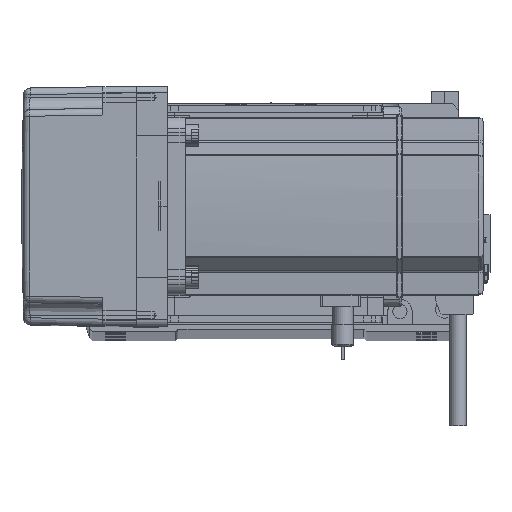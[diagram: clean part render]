
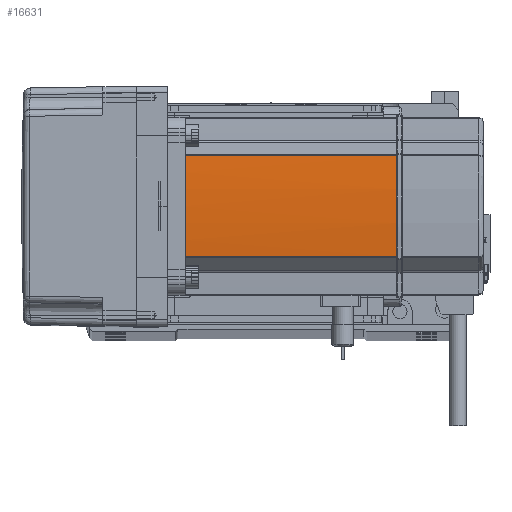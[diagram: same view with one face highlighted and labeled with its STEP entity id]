
A CAD part, top view. The second image highlights one B-rep face of the part: STEP entity #16631.
In plain terms, the highlighted cylindrical face has radius 270 mm (diameter 540 mm), a partial arc.
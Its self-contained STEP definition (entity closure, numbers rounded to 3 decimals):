
#725 = AXIS2_PLACEMENT_3D ( 'NONE', #38058, #58352, #13591 ) ;
#1411 = CARTESIAN_POINT ( 'NONE',  ( -230., 0., 39. ) ) ;
#3088 = VERTEX_POINT ( 'NONE', #38329 ) ;
#3844 = CARTESIAN_POINT ( 'NONE',  ( 40., 0.042, 134. ) ) ;
#3898 = DIRECTION ( 'NONE',  ( 0., 0., -1. ) ) ;
#4697 = CARTESIAN_POINT ( 'NONE',  ( 39.042, 22.724, 39. ) ) ;
#5850 = EDGE_CURVE ( 'NONE', #3088, #55106, #13916, .T. ) ;
#6247 = B_SPLINE_CURVE_WITH_KNOTS ( 'NONE', 3,
 ( #41399, #33050, #3844, #18441 ),
 .UNSPECIFIED., .F., .F.,
 ( 4, 4 ),
 ( 0., 1. ),
 .UNSPECIFIED. ) ;
#10141 = AXIS2_PLACEMENT_3D ( 'NONE', #1411, #60132, #11488 ) ;
#11488 = DIRECTION ( 'NONE',  ( -1., 0., 0. ) ) ;
#12678 = ORIENTED_EDGE ( 'NONE', *, *, #37983, .T. ) ;
#13591 = DIRECTION ( 'NONE',  ( -1., 0., 0. ) ) ;
#13916 = CIRCLE ( 'NONE', #34352, 270. ) ;
#14516 = VERTEX_POINT ( 'NONE', #56170 ) ;
#16631 = ADVANCED_FACE ( 'NONE', ( #33825 ), #28436, .T. ) ;
#18441 = CARTESIAN_POINT ( 'NONE',  ( 40., 0.127, 134. ) ) ;
#19591 = EDGE_CURVE ( 'NONE', #35133, #14516, #48730, .T. ) ;
#22905 = EDGE_CURVE ( 'NONE', #14516, #60918, #62020, .T. ) ;
#23170 = DIRECTION ( 'NONE',  ( -1., 0., 0. ) ) ;
#23396 = CARTESIAN_POINT ( 'NONE',  ( 39.042, -22.724, 58. ) ) ;
#23442 = VECTOR ( 'NONE', #34214, 1000. ) ;
#23820 = LINE ( 'NONE', #23396, #38448 ) ;
#24049 = DIRECTION ( 'NONE',  ( 0., 0., -1. ) ) ;
#24173 = ORIENTED_EDGE ( 'NONE', *, *, #61658, .F. ) ;
#25513 = CARTESIAN_POINT ( 'NONE',  ( 39.042, -22.724, 134. ) ) ;
#25559 = AXIS2_PLACEMENT_3D ( 'NONE', #42935, #3898, #23170 ) ;
#25616 = ORIENTED_EDGE ( 'NONE', *, *, #22905, .T. ) ;
#28436 = CYLINDRICAL_SURFACE ( 'NONE', #725, 270. ) ;
#29422 = CARTESIAN_POINT ( 'NONE',  ( -230., 0., 134. ) ) ;
#31144 = ORIENTED_EDGE ( 'NONE', *, *, #5850, .T. ) ;
#33050 = CARTESIAN_POINT ( 'NONE',  ( 40., -0.042, 134. ) ) ;
#33825 = FACE_OUTER_BOUND ( 'NONE', #49911, .T. ) ;
#34013 = CARTESIAN_POINT ( 'NONE',  ( 39.042, 22.724, 58. ) ) ;
#34214 = DIRECTION ( 'NONE',  ( 0., 0., 1. ) ) ;
#34352 = AXIS2_PLACEMENT_3D ( 'NONE', #29422, #24049, #58357 ) ;
#35133 = VERTEX_POINT ( 'NONE', #4697 ) ;
#37983 = EDGE_CURVE ( 'NONE', #55106, #53320, #23820, .T. ) ;
#38058 = CARTESIAN_POINT ( 'NONE',  ( -230., 0., 58. ) ) ;
#38329 = CARTESIAN_POINT ( 'NONE',  ( 40., -0.127, 134. ) ) ;
#38448 = VECTOR ( 'NONE', #42729, 1000. ) ;
#38659 = CIRCLE ( 'NONE', #10141, 270. ) ;
#40175 = ORIENTED_EDGE ( 'NONE', *, *, #19591, .T. ) ;
#41399 = CARTESIAN_POINT ( 'NONE',  ( 40., -0.127, 134. ) ) ;
#42729 = DIRECTION ( 'NONE',  ( 0., 0., -1. ) ) ;
#42935 = CARTESIAN_POINT ( 'NONE',  ( -230., 0., 134. ) ) ;
#48585 = EDGE_CURVE ( 'NONE', #3088, #60918, #6247, .T. ) ;
#48730 = LINE ( 'NONE', #34013, #23442 ) ;
#48747 = CARTESIAN_POINT ( 'NONE',  ( 40., 0.127, 134. ) ) ;
#49318 = CARTESIAN_POINT ( 'NONE',  ( 39.042, -22.724, 39. ) ) ;
#49911 = EDGE_LOOP ( 'NONE', ( #12678, #24173, #40175, #25616, #62927, #31144 ) ) ;
#53320 = VERTEX_POINT ( 'NONE', #49318 ) ;
#55106 = VERTEX_POINT ( 'NONE', #25513 ) ;
#56170 = CARTESIAN_POINT ( 'NONE',  ( 39.042, 22.724, 134. ) ) ;
#58352 = DIRECTION ( 'NONE',  ( 0., 0., -1. ) ) ;
#58357 = DIRECTION ( 'NONE',  ( -1., 0., 0. ) ) ;
#60132 = DIRECTION ( 'NONE',  ( 0., 0., -1. ) ) ;
#60918 = VERTEX_POINT ( 'NONE', #48747 ) ;
#61658 = EDGE_CURVE ( 'NONE', #35133, #53320, #38659, .T. ) ;
#62020 = CIRCLE ( 'NONE', #25559, 270. ) ;
#62927 = ORIENTED_EDGE ( 'NONE', *, *, #48585, .F. ) ;
